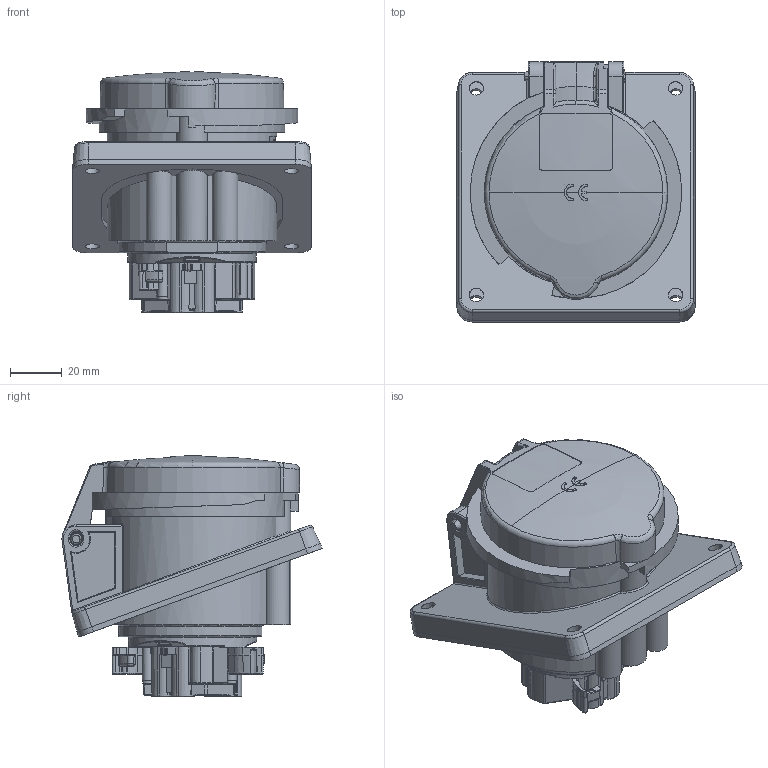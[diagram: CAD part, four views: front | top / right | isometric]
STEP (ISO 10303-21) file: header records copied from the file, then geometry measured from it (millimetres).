
FILE_DESCRIPTION((''),'2;1');
FILE_NAME('1734','2025-07-08T13:35:23',('kremer'),('MENNEKES'),'CREO PARAMETRIC BY PTC INC, 2023134','CREO PARAMETRIC BY PTC INC, 2023134','');
FILE_SCHEMA(('AUTOMOTIVE_DESIGN { 1 0 10303 214 1 1 1 1 }'));
Products named in the file (1): 1734
Bounding box: 92 x 100.52 x 93.15 mm (x, y, z)
Volume: 341691.3 mm3; surface area: 51792.7 mm2
Topology: 1 solids, 1 shells, 1981 faces, 5314 edges, 3359 vertices
Faces by surface type: plane 891, cylinder 499, torus 232, bspline 211, cone 118, sphere 24, extrusion 4, revolution 2
Entity records: 112216 total; most frequent: CARTESIAN_POINT 25464, ORIENTED_EDGE 10582, DIRECTION 8822, PRESENTATION_STYLE_ASSIGNMENT 7249, STYLED_ITEM 5296, CURVE_STYLE 5295, EDGE_CURVE 5291, FILL_AREA_STYLE_COLOUR 3907
